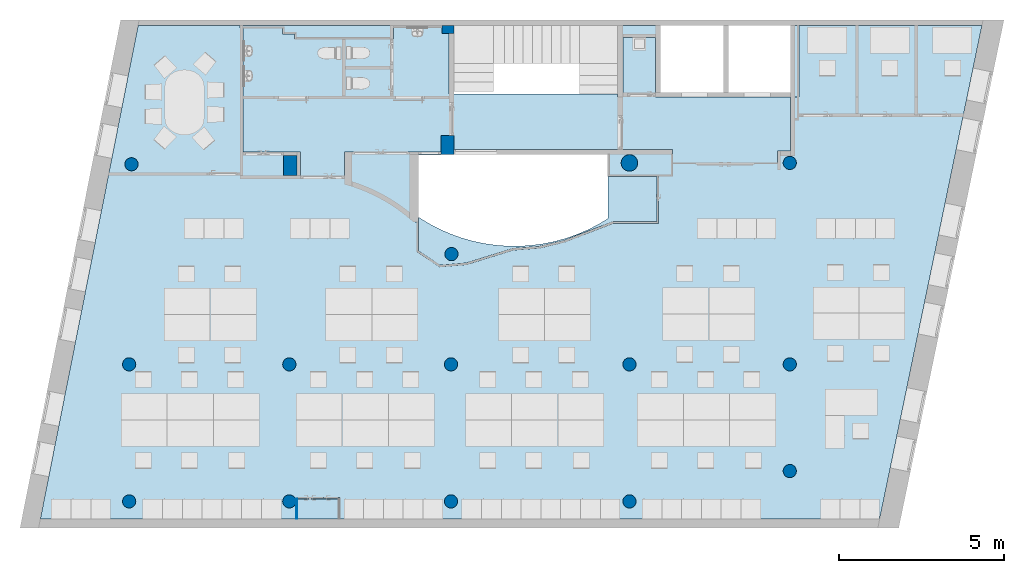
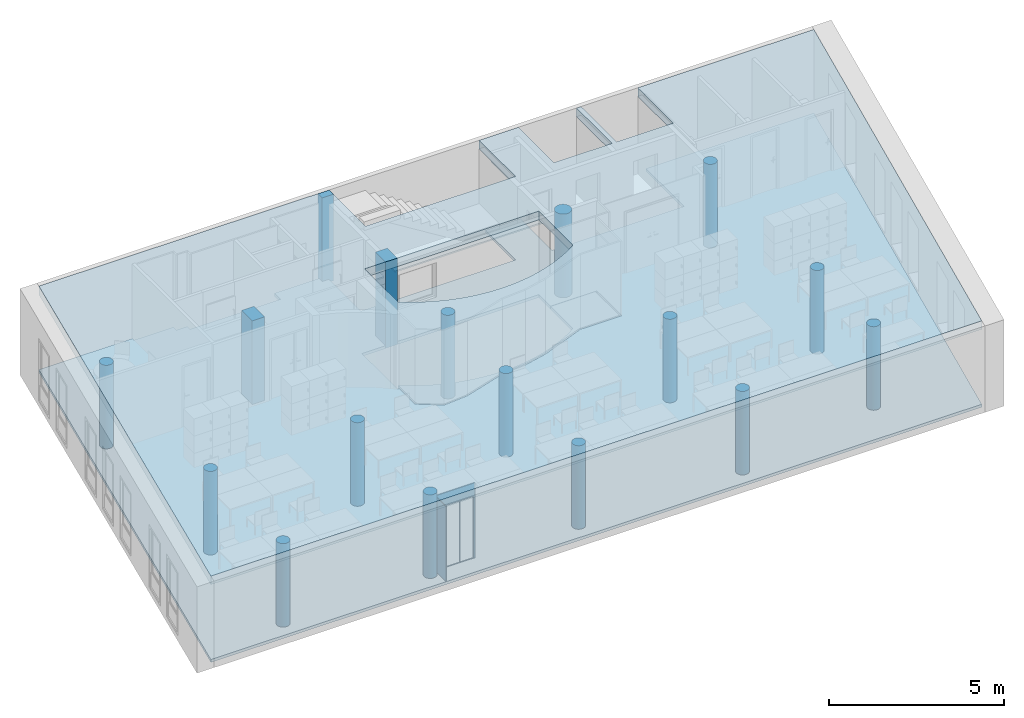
"""IFC4 building model written with IfcOpenShell, lengths in metres."""

from ifc_helpers import new_model, entity, si_unit, converted_unit, derived_unit, frame, frame_2d, origin, origin_with_axes, place, context, subcontext, project, spatial, polyline, rectangle, circle, outline, extrude, material, layer, layer_set, layer_usage, element, save


model = new_model("IFC4")

# Units and contexts
model_context = context("Model", 3, precision=1e-05, world=origin())
body_context = subcontext(model_context, "Body", "Model", "MODEL_VIEW")
ifc_project = project(units=[si_unit("LENGTHUNIT", "METRE"), si_unit("AREAUNIT", "SQUARE_METRE"), si_unit("VOLUMEUNIT", "CUBIC_METRE"), si_unit("MASSUNIT", "GRAM", prefix="KILO"), converted_unit("PLANEANGLEUNIT", "DEGREE", entity("IfcPlaneAngleMeasure", 0.0174532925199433), si_unit("PLANEANGLEUNIT", "RADIAN"), dimensions=[0, 0, 0, 0, 0, 0, 0]), derived_unit("THERMALTRANSMITTANCEUNIT", [(si_unit("POWERUNIT", "WATT"), 1), (si_unit("THERMODYNAMICTEMPERATUREUNIT", "KELVIN"), -1), (si_unit("LENGTHUNIT", "METRE"), -2)]), derived_unit("VOLUMETRICFLOWRATEUNIT", [(si_unit("LENGTHUNIT", "METRE"), 3), (converted_unit("TIMEUNIT", "hour", entity("IfcTimeMeasure", 3600.0), si_unit("TIMEUNIT", "SECOND"), dimensions=[0, 0, 1, 0, 0, 0, 0]), -1), (si_unit("LENGTHUNIT", "METRE"), -1)])], contexts=[model_context])

# Building, storeys
building_placement = place(None, origin())
building = spatial("IfcBuilding", under=ifc_project, at=building_placement, Name="HABITATGE PLURIFAMILIAR", CompositionType="ELEMENT")
storey_1_placement = place(building_placement, frame((0.0, 0.0, 15.28)))
storey_1 = spatial("IfcBuildingStorey", under=building, at=storey_1_placement, Name="PLANTA QUARTA", CompositionType="ELEMENT", Elevation=15.28)
storey_2_placement = place(storey_1_placement, frame((0.0, 0.0, 12.27)))
storey_2 = spatial("IfcBuildingStorey", under=storey_1, at=storey_2_placement, Name="NOU", CompositionType="PARTIAL")

# Columns
for number, where, name in (
    (1, (400.786984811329, 13.4494598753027, -12.37), "Pilar P4"),
    (2, (405.636984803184, 13.4494598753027, -12.37), "Pilar P4"),
    (3, (405.636984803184, 17.5994598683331, -12.37), "Pilar P4"),
    (4, (410.53372553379, 13.4494598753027, -12.37), "Pilar P4"),
    (5, (410.53372553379, 17.5994598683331, -12.37), "Pilar P4"),
    (6, (415.936984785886, 17.5994598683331, -12.37), "Pilar P4"),
    (7, (420.791984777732, 17.5994598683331, -12.37), "Pilar P4"),
    (8, (420.791984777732, 14.3694598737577, -12.37), "Pilar P4"),
    (9, (415.936984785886, 13.4494598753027, -12.37), "Pilar P4"),
    (10, (420.791984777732, 23.6994598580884, -12.37), "Pilar P4"),
):
    element("IfcColumn", number, at=place(storey_2_placement, frame(where)), inside=storey_2, Name=name, PredefinedType="COLUMN", context=body_context, shape_type="SweptSolid", body=[
        extrude(circle(Radius=0.200000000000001, at=frame_2d((0.200000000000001, 0.200000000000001), x_axis=(1.0, 0.0))), origin_with_axes(), (0.0, 0.0, 1.0), 3.01),
    ])
column_1_placement = place(storey_2_placement, frame((415.886984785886, 23.6494598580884, -12.37)))
element("IfcColumn", 11, at=column_1_placement, inside=storey_2, Name="Pilar P4", PredefinedType="COLUMN", context=body_context, shape_type="SweptSolid", body=[
    extrude(circle(Radius=0.25, at=frame_2d((0.25, 0.25), x_axis=(1.0, 0.0))), origin_with_axes(), (0.0, 0.0, 1.0), 3.01),
])
column_2_placement = place(storey_2_placement, frame((400.856984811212, 23.6594598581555, -12.37)))
element("IfcColumn", 12, at=column_2_placement, inside=storey_2, Name="Pilar P4", PredefinedType="COLUMN", context=body_context, shape_type="SweptSolid", body=[
    extrude(circle(Radius=0.200000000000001, at=frame_2d((0.200000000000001, 0.200000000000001), x_axis=(1.0, 0.0))), origin_with_axes(), (0.0, 0.0, 1.0), 3.01),
])
column_3_placement = place(storey_2_placement, frame((410.426984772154, 24.1594598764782, -12.37)))
element("IfcColumn", 13, at=column_3_placement, inside=storey_2, Name="Pilar P4", PredefinedType="COLUMN", context=body_context, shape_type="SweptSolid", body=[
    extrude(rectangle(XDim=0.4, YDim=0.57, at=frame_2d((0.2, 0.285), x_axis=(1.0, 0.0))), origin_with_axes(), (0.0, 0.0, 1.0), 3.01),
])
column_4_placement = place(storey_2_placement, frame((405.666984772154, 23.5194598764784, -12.37)))
element("IfcColumn", 14, at=column_4_placement, inside=storey_2, Name="Pilar P4", PredefinedType="COLUMN", context=body_context, shape_type="SweptSolid", body=[
    extrude(rectangle(XDim=0.410000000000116, YDim=0.609999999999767, at=frame_2d((0.205000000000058, 0.304999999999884), x_axis=(1.0, 0.0))), origin_with_axes(), (0.0, 0.0, 1.0), 3.01),
])
for number, where, name in (
    (15, (410.546984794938, 20.9394598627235, -12.37), "Pilar P4"),
    (16, (400.786984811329, 17.5994598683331, -12.37), "Pilar P4"),
):
    element("IfcColumn", number, at=place(storey_2_placement, frame(where)), inside=storey_2, Name=name, PredefinedType="COLUMN", context=body_context, shape_type="SweptSolid", body=[
        extrude(circle(Radius=0.200000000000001, at=frame_2d((0.200000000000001, 0.200000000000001), x_axis=(1.0, 0.0))), origin_with_axes(), (0.0, 0.0, 1.0), 3.01),
    ])
column_5_placement = place(storey_2_placement, frame((410.456984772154, 27.8194598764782, -12.37)))
element("IfcColumn", 17, at=column_5_placement, inside=storey_2, Name="Pilar P4", PredefinedType="COLUMN", context=body_context, shape_type="SweptSolid", body=[
    extrude(rectangle(XDim=0.370000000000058, YDim=0.248788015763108, at=frame_2d((0.185000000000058, 0.124394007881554), x_axis=(1.0, 0.0))), origin_with_axes(), (0.0, 0.0, 1.0), 3.01),
])

# Slabs
slab_1_placement = place(storey_2_placement, frame((398.29522871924, 13.1106121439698, -9.66)))
element("IfcSlab", 18, at=slab_1_placement, inside=storey_2, Name="Forjat P4", PredefinedType="FLOOR", context=body_context, shape_type="SweptSolid", body=[
    extrude(outline(polyline([(12.5317560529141, 14.9576357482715), (2.9654415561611, 14.9576357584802), (0.0, 0.0), (25.4182080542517, 0.0), (28.5180203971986, 14.9576357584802), (22.711756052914, 14.9576357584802), (22.711756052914, 12.9288477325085), (20.8417560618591, 12.9288477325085), (20.8417560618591, 14.9576357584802), (20.6917560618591, 14.9576357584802), (20.6917560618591, 12.9288477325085), (18.779463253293, 12.9288477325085), (18.779463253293, 14.9576357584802), (17.4817560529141, 14.9576357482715), (17.4817560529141, 12.8815389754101), (12.5317560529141, 12.878849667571), (12.5317560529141, 14.9576357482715)]), holes=[polyline([(11.451756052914, 11.0488477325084), (17.191756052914, 11.0488477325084), (17.191756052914, 9.1032116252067), (17.1233287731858, 9.05985141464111), (17.0542385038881, 9.01755560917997), (16.9845018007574, 8.97633434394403), (16.9141353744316, 8.93619749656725), (16.8431560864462, 8.89715468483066), (16.7715809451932, 8.85921526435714), (16.6994271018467, 8.82238832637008), (16.6267118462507, 8.78668269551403), (16.5534526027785, 8.75210692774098), (16.479666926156, 8.71866930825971), (16.4053724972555, 8.68637784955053), (16.3305871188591, 8.65524028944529), (16.2553287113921, 8.62526408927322), (16.1796153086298, 8.59645643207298), (16.1034650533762, 8.56882422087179), (16.0268961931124, 8.54237407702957), (15.949927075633, 8.51711233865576), (15.8725761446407, 8.49304505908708), (15.7948619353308, 8.47017800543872), (15.7168030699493, 8.44851665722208), (15.6384182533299, 8.42806620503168), (15.5597262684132, 8.40883154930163), (15.4807459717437, 8.39081729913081), (15.4014962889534, 8.374027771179), (15.3219962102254, 8.35846698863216), (15.2422647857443, 8.34413868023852), (15.1623211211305, 8.33104627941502), (15.0821843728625, 8.31919292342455), (15.0018737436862, 8.30858145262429), (14.9214084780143, 8.29921440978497), (14.8408078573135, 8.29109403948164), (14.7600911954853, 8.28422228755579), (14.6792778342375, 8.27860080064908), (14.5983871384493, 8.27423092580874), (14.5174384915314, 8.27111371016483), (14.4364512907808, 8.26924990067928), (14.3554449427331, 8.26863994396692), (14.274438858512, 8.26928398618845), (14.1934524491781, 8.27118187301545), (14.1125051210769, 8.27433314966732), (14.0316162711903, 8.27873706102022), (13.9508052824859, 8.28439255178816), (13.8700915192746, 8.29129826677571), (13.7894943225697, 8.29945255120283), (13.709033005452, 8.30885345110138), (13.6287268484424, 8.31949871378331), (13.5485950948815, 8.33138578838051), (13.4686569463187, 8.34451182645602), (13.3889315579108, 8.35887368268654), (13.3094380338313, 8.3744679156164), (13.2301954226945, 8.39129078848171), (13.151222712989, 8.40933827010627), (13.0725388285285, 8.42860603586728), (12.994162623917, 8.44908946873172), (12.9161128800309, 8.47078366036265), (12.8384082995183, 8.49368341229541), (12.7610675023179, 8.51778323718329), (12.6841090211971, 8.54307736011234), (12.6075512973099, 8.56955971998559), (12.5314126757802, 8.59722397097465), (12.4557114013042, 8.62606348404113), (12.3804656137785, 8.65607134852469), (12.3056933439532, 8.68724037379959), (12.2314125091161, 8.71956309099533), (12.1576409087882, 8.75303175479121), (12.0843962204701, 8.78763834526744), (12.0116959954, 8.82337456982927), (11.9395576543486, 8.86023186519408), (11.8679984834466, 8.89820139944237), (11.7970356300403, 8.93727407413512), (11.7266860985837, 8.97744052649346), (11.656966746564, 9.01869113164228), (11.5878942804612, 9.06101600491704), (11.5194852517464, 9.1044050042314), (11.4517560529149, 9.14884773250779), (11.451756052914, 11.0488477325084)])]), origin_with_axes(), (0.0, 0.0, 1.0), 0.3),
])
slab_2_placement = place(storey_2_placement, frame((404.436984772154, 23.5044598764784, -9.96)))
element("IfcSlab", 19, at=slab_2_placement, inside=storey_2, Name="Fals sostre P4", PredefinedType="FLOOR", context=body_context, shape_type="SweptSolid", body=[
    extrude(outline(polyline([(0.0, 4.47499999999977), (0.0, 0.724999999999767), (1.74, 0.724999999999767), (1.74, 0.0), (3.06904787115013, 0.0), (3.07, 0.724999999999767), (5.98999999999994, 0.724999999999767), (5.98999999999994, 1.22499999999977), (6.38999999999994, 1.22499999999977), (6.38999999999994, 0.804999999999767), (13.0099999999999, 0.804999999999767), (13.0099999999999, 0.395), (16.1799999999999, 0.395), (16.1799999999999, 0.755), (16.5699999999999, 0.755), (16.5699999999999, 2.38499999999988), (12.4877072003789, 2.38567575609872), (12.4877072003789, 4.195), (11.51, 4.195), (11.51, 2.38583759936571), (11.3396889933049, 2.38586579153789), (11.3396889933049, 2.47586579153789), (6.24, 2.48207837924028), (6.24, 4.31499999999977), (6.01999999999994, 4.31499999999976), (6.01999999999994, 4.49499999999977), (4.55, 4.49499999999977), (4.55, 4.14499999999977), (1.56187124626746, 4.14499999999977), (1.56, 4.30499999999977), (1.2, 4.30499999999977), (1.2, 4.47499999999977), (0.0, 4.47499999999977)])), origin_with_axes(), (0.0, 0.0, 1.0), 0.05),
])
slab_3_placement = place(storey_2_placement, frame((398.29522871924, 13.1106121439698, -12.37)))
element("IfcSlab", 20, at=slab_3_placement, inside=storey_2, PredefinedType="FLOOR", context=body_context, shape_type="SweptSolid", body=[
    extrude(outline(polyline([(18.629463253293, 12.7788477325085), (18.629463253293, 14.5888477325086), (17.4817560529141, 14.5888477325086), (17.4817560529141, 12.8815352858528), (12.3817560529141, 12.8788496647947), (12.3817560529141, 14.7088477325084), (12.161756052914, 14.7088477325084), (12.161756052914, 14.8888477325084), (10.6917560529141, 14.8888477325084), (10.6917560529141, 14.5388477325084), (7.70175605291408, 14.5388477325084), (7.70175605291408, 14.6988477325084), (7.34175605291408, 14.6988477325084), (7.34175605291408, 14.8688477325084), (6.04175605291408, 14.8688477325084), (6.04175605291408, 14.957635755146), (2.96349700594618, 14.9576357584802), (0.0, 0.0), (25.4182080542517, 0.0), (28.5180203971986, 14.9576357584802), (22.9817560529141, 14.9576357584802), (22.9817560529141, 12.7788477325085), (18.629463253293, 12.7788477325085)]), holes=[polyline([(11.4034174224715, 8.9990136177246), (11.3542154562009, 8.9990136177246), (11.3542154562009, 11.0368825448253), (12.1357557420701, 11.0368825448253), (12.1357557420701, 11.0488477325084), (17.1943932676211, 11.0518825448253), (17.1943932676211, 10.3830417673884), (18.7225674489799, 10.3830417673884), (18.7225674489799, 8.96069682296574), (17.3510205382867, 8.96069682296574), (15.8778775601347, 8.39345211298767), (15.1116738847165, 8.21142582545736), (14.324304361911, 8.15216145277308), (12.9104257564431, 7.71191182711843), (12.0934240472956, 7.64418111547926), (11.4034174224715, 8.10113914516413), (11.4034174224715, 8.9990136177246)])]), origin_with_axes(), (0.0, 0.0, 1.0), 0.1),
])
slab_4_placement = place(storey_2_placement, frame((409.746984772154, 20.8007729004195, -12.37)))
element("IfcSlab", 21, at=slab_4_placement, inside=storey_2, Name="Paviment PSC", PredefinedType="FLOOR", context=body_context, shape_type="SweptSolid", body=[
    extrude(outline(polyline([(5.74, 2.68868697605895), (5.74, 1.41305086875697), (5.43322581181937, 1.22982725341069), (5.11466340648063, 1.06796530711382), (4.78579800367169, 0.928219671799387), (4.44816285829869, 0.811241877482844), (4.10333211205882, 0.717577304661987), (3.75291345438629, 0.647662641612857), (3.39854062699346, 0.601823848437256), (3.04186580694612, 0.580274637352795), (2.68455190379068, 0.583115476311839), (2.32826480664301, 0.610333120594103), (1.97466561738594, 0.661800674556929), (1.62540290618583, 0.737278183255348), (1.28210502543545, 0.836413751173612), (0.946372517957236, 0.958745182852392), (0.61977065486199, 1.1037021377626), (0.30382213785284, 1.27060878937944), (0.0, 1.45868697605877), (0.0, 0.435594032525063), (0.652597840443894, 0.0), (1.44673818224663, 0.0680408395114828), (2.86004820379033, 0.508111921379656), (3.64957753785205, 0.568249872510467), (4.41148500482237, 0.746538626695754), (5.14324609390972, 1.0353208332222), (5.88211983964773, 1.31538096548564), (5.89066652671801, 1.31868697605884), (7.22, 1.31868697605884), (7.22000000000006, 2.68868697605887), (5.74, 2.68868697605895)]), holes=[polyline([(0.9, 0.165481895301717), (0.897611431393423, 0.167154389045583), (0.884992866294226, 0.174439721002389), (0.873831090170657, 0.183805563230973), (0.871442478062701, 0.185478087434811), (0.869380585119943, 0.187539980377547), (0.85821884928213, 0.196905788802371), (0.848853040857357, 0.208067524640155), (0.846791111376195, 0.210129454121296), (0.84511855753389, 0.212518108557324), (0.835752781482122, 0.223679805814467), (0.828467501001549, 0.236298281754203), (0.826794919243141, 0.238686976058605), (0.82556254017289, 0.241329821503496), (0.818277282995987, 0.253948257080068), (0.81329387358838, 0.267640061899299), (0.812061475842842, 0.270282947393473), (0.811306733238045, 0.273099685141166), (0.806323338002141, 0.286791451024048), (0.80379320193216, 0.301140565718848), (0.803038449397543, 0.303957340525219), (0.802784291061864, 0.306862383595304), (0.800254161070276, 0.321211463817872), (0.800254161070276, 0.356162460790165), (0.802784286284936, 0.370511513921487), (0.803038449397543, 0.373416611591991), (0.803793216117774, 0.376233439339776), (0.806323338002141, 0.390582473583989), (0.811306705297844, 0.404274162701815), (0.812061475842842, 0.407091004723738), (0.813293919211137, 0.409733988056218), (0.818277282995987, 0.423425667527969), (0.825562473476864, 0.436043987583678), (0.826794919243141, 0.438686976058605), (0.828467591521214, 0.441075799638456), (0.835752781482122, 0.45369411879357), (0.845118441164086, 0.46485567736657), (0.846791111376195, 0.467244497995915), (0.848853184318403, 0.469306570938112), (0.85821884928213, 0.480468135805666), (0.869380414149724, 0.489833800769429), (0.871442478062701, 0.491895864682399), (0.873831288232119, 0.493568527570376), (0.884992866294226, 0.502934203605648), (0.897611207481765, 0.510219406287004), (0.9, 0.511892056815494), (0.902642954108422, 0.513124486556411), (0.915261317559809, 0.520409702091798), (0.928953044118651, 0.525393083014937), (0.931595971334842, 0.526625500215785), (0.934412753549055, 0.52738025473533), (0.948104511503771, 0.532363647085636), (0.962453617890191, 0.534893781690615), (0.965270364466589, 0.535648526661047), (0.96817537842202, 0.535902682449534), (0.982524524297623, 0.53843282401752), (1.01747552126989, 0.53843282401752), (1.03182471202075, 0.535902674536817), (1.03472963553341, 0.535648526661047), (1.03754629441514, 0.534893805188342), (1.05189553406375, 0.532363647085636), (1.06558741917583, 0.527380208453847), (1.06840402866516, 0.526625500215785), (1.07104679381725, 0.525393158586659), (1.08473872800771, 0.520409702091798), (1.09735728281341, 0.513124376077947), (1.1, 0.511892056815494), (1.10238857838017, 0.510219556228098), (1.11500717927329, 0.502934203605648), (1.12616898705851, 0.493568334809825), (1.1285575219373, 0.491895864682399), (1.13061934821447, 0.489834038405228), (1.14178119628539, 0.480468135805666), (1.15114709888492, 0.469306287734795), (1.15320888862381, 0.467244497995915), (1.1548813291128, 0.464856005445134), (1.1642472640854, 0.45369411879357), (1.17153266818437, 0.441075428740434), (1.17320508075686, 0.438686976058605), (1.17443733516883, 0.43604439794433), (1.18172276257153, 0.423425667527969), (1.18670628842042, 0.409733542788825), (1.18793852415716, 0.407091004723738), (1.18869316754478, 0.404274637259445), (1.19367670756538, 0.390582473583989), (1.19620691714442, 0.376232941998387), (1.19696155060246, 0.373416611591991), (1.19721566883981, 0.370512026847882), (1.19974588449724, 0.356162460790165), (1.19974588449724, 0.321211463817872), (1.19721566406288, 0.306861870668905), (1.19696155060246, 0.303957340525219), (1.19620693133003, 0.301141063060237), (1.19367670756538, 0.286791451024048), (1.18869313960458, 0.273099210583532), (1.18793852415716, 0.270282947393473), (1.18670633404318, 0.267640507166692), (1.18172276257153, 0.253948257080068), (1.1744372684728, 0.241329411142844), (1.17320508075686, 0.238686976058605), (1.17153275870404, 0.236298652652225), (1.1642472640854, 0.223679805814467), (1.154881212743, 0.212517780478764), (1.15320888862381, 0.210129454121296), (1.15114724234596, 0.208067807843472), (1.14178119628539, 0.196905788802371), (1.13061917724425, 0.187539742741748), (1.1285575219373, 0.185478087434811), (1.12616918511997, 0.183805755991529), (1.11500717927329, 0.174439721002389), (1.10238835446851, 0.16715423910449), (1.1, 0.165481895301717), (1.0973575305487, 0.164249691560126), (1.08473872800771, 0.156964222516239), (1.07104652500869, 0.151980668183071), (1.06840402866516, 0.150748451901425), (1.0655877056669, 0.149993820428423), (1.05189553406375, 0.1450102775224), (1.03754599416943, 0.142480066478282), (1.03472963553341, 0.141725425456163), (1.03182502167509, 0.141471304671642), (1.01747552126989, 0.138941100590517), (0.982524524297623, 0.138941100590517), (0.968175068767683, 0.141471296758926), (0.965270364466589, 0.141725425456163), (0.962453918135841, 0.142480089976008), (0.948104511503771, 0.1450102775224), (0.934412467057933, 0.149993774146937), (0.931595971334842, 0.150748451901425), (0.928953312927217, 0.151980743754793), (0.915261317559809, 0.156964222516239), (0.902642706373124, 0.164249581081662), (0.9, 0.165481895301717)])]), origin_with_axes(), (0.0, 0.0, 1.0), 0.1),
])

# Wall, openings
ifc_material_1 = material()
ifc_layer_1 = layer(ifc_material_1, 0.03)
ifc_layer_set_1 = layer_set([ifc_layer_1])
ifc_layer_usage_1 = layer_usage(ifc_layer_set_1, "AXIS2", "POSITIVE", 0.0)
wall_1_placement = place(storey_2_placement, frame((407.361610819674, 13.7631365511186, -12.32), z_axis=(0.0, 0.0, 1.0), x_axis=(-1.0, 0.0, 0.0)))
wall_1 = element("IfcWall", 22, at=wall_1_placement, inside=storey_2, material=ifc_layer_usage_1, Name="Evans PA", context=body_context, shape_type="SweptSolid", body=[
    extrude(rectangle(XDim=1.31229787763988, YDim=0.03, at=frame_2d((0.656148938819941, 0.015), x_axis=(1.0, 0.0))), origin_with_axes(), (0.0, 0.0, 1.0), 2.66),
])
opening_1_placement = place(wall_1_placement, frame((0.0452878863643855, 0.0, 0.05), z_axis=(0.0, 1.0, 0.0), x_axis=(0.0, 0.0, 1.0)))
element("IfcOpeningElement", 23, at=opening_1_placement, cuts=wall_1, Name="Vano de puerta PA", ObjectType="Opening", context=body_context, shape_type="SweptSolid", body=[
    extrude(outline(polyline([(2.15, 0.441930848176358), (2.15, 0.0), (0.0, 0.0), (0.0, 0.441930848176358), (2.15, 0.441930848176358)])), origin_with_axes(), (0.0, 0.0, 1.0), 0.03),
])
opening_2_placement = place(wall_1_placement, frame((0.487834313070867, 0.0, 0.05), z_axis=(0.0, 1.0, 0.0), x_axis=(0.0, 0.0, 1.0)))
element("IfcOpeningElement", 24, at=opening_2_placement, cuts=wall_1, Name="Vano de puerta PA", ObjectType="Opening", context=body_context, shape_type="SweptSolid", body=[
    extrude(outline(polyline([(2.15, 0.822674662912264), (2.15, 0.0), (0.0, 0.0), (0.0, 0.822674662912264), (2.15, 0.822674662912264)])), origin_with_axes(), (0.0, 0.0, 1.0), 0.03),
])

# Wall
ifc_material_2 = material()
ifc_layer_2 = layer(ifc_material_2, 0.025)
ifc_layer_set_2 = layer_set([ifc_layer_2])
ifc_layer_usage_2 = layer_usage(ifc_layer_set_2, "AXIS2", "POSITIVE", 0.0)
wall_2_placement = place(storey_2_placement, frame((406.074312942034, 13.1206121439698, -12.32), z_axis=(0.0, 0.0, 1.0), x_axis=(0.0, 1.0, 0.0)))
element("IfcWall", 25, at=wall_2_placement, inside=storey_2, material=ifc_layer_usage_2, Name="Evans PA", context=body_context, shape_type="SweptSolid", body=[
    extrude(rectangle(XDim=0.612524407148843, YDim=0.025, at=frame_2d((0.306262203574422, 0.0125), x_axis=(1.0, 0.0))), origin_with_axes(), (0.0, 0.0, 1.0), 2.66),
])

save(model, "model.ifc")
